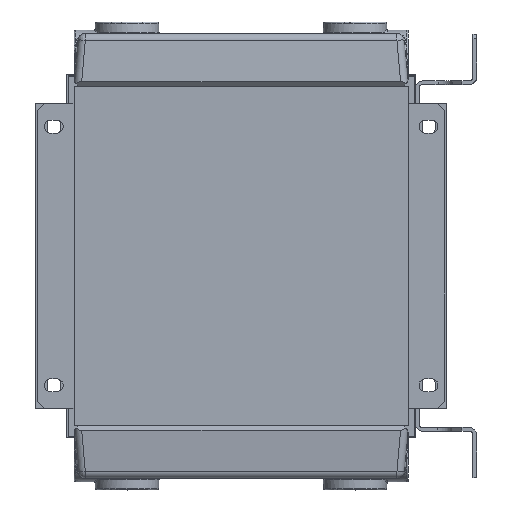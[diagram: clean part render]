
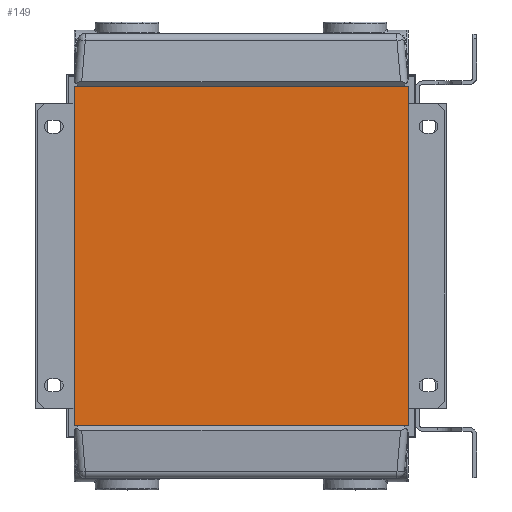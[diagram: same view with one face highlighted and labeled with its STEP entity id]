
A CAD part, top view. The second image highlights one B-rep face of the part: STEP entity #149.
In plain terms, the highlighted planar face has unit normal (0, 0, 1).
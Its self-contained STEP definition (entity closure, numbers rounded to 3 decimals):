
#17=CARTESIAN_POINT('',(-30.208,257.765,63.0));
#18=VERTEX_POINT('',#17);
#25=CARTESIAN_POINT('',(199.792,257.765,63.0));
#26=VERTEX_POINT('',#25);
#27=CARTESIAN_POINT('',(199.792,257.765,63.0));
#28=DIRECTION('',(-1.0,0.0,0.0));
#29=VECTOR('',#28,230.0);
#30=LINE('',#27,#29);
#31=EDGE_CURVE('',#26,#18,#30,.T.);
#55=CARTESIAN_POINT('',(-30.208,24.765,63.0));
#56=VERTEX_POINT('',#55);
#63=CARTESIAN_POINT('',(-30.208,257.765,63.0));
#64=DIRECTION('',(0.0,-1.0,0.0));
#65=VECTOR('',#64,233.);
#66=LINE('',#63,#65);
#67=EDGE_CURVE('',#18,#56,#66,.T.);
#86=CARTESIAN_POINT('',(199.792,24.765,63.0));
#87=VERTEX_POINT('',#86);
#94=CARTESIAN_POINT('',(-30.208,24.765,63.0));
#95=DIRECTION('',(1.0,0.0,0.0));
#96=VECTOR('',#95,230.0);
#97=LINE('',#94,#96);
#98=EDGE_CURVE('',#56,#87,#97,.T.);
#116=CARTESIAN_POINT('',(199.792,24.765,63.0));
#117=DIRECTION('',(0.0,1.0,0.0));
#118=VECTOR('',#117,233.);
#119=LINE('',#116,#118);
#120=EDGE_CURVE('',#87,#26,#119,.T.);
#138=CARTESIAN_POINT('',(-53.208,1.465,63.0));
#139=DIRECTION('',(0.0,0.0,1.0));
#140=DIRECTION('',(1.0,0.0,0.0));
#141=AXIS2_PLACEMENT_3D('',#138,#139,#140);
#142=PLANE('',#141);
#143=ORIENTED_EDGE('',*,*,#31,.T.);
#144=ORIENTED_EDGE('',*,*,#67,.T.);
#145=ORIENTED_EDGE('',*,*,#98,.T.);
#146=ORIENTED_EDGE('',*,*,#120,.T.);
#147=EDGE_LOOP('',(#143,#144,#145,#146));
#148=FACE_OUTER_BOUND('',#147,.T.);
#149=ADVANCED_FACE('',(#148),#142,.T.);
